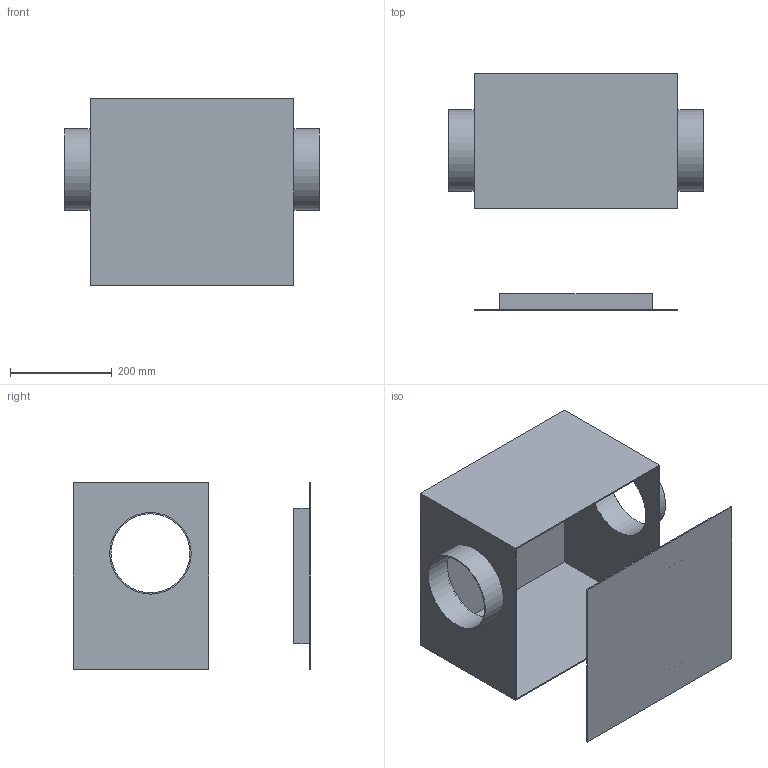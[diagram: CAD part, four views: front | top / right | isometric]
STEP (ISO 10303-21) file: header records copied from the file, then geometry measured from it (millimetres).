
FILE_DESCRIPTION(/* description */ (''),/* implementation_level */ '2;1');
FILE_NAME(/* name */ 'Z:\Output\SB_160_D-09563-002.stp',/* time_stamp */ '2020-12-15T15:45:43+01:00',/* author */ ('engineering1'),/* organization */ (''),/* preprocessor_version */ 'ST-DEVELOPER v17.2',/* originating_system */ 'Autodesk Inventor 2019',/* authorisation */ '');
FILE_SCHEMA (('AUTOMOTIVE_DESIGN { 1 0 10303 214 3 1 1 }'));
Length unit declared in the file: millimetre
Products named in the file (1): SB-1
Bounding box: 500 x 465 x 365 mm (x, y, z)
Volume: 2088395.9 mm3; surface area: 1481876.5 mm2
Topology: 2 solids, 2 shells, 33 faces, 72 edges, 48 vertices
Faces by surface type: plane 29, cylinder 4
Full cylindrical faces by diameter (mm): 155 x2, 160 x2
Entity records: 942 total; most frequent: CARTESIAN_POINT 154, DIRECTION 148, ORIENTED_EDGE 144, EDGE_CURVE 72, LINE 64, VECTOR 64, VERTEX_POINT 48, EDGE_LOOP 42
